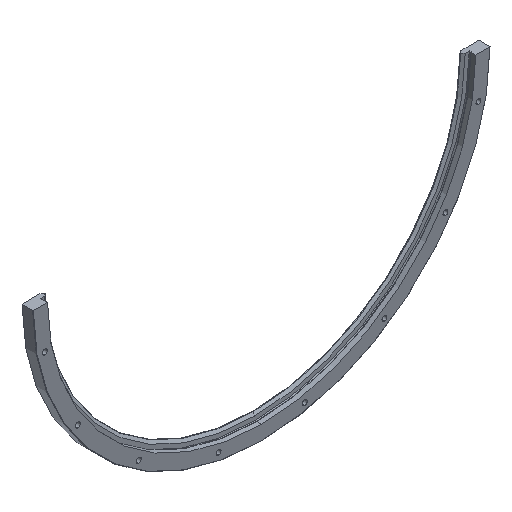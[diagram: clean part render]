
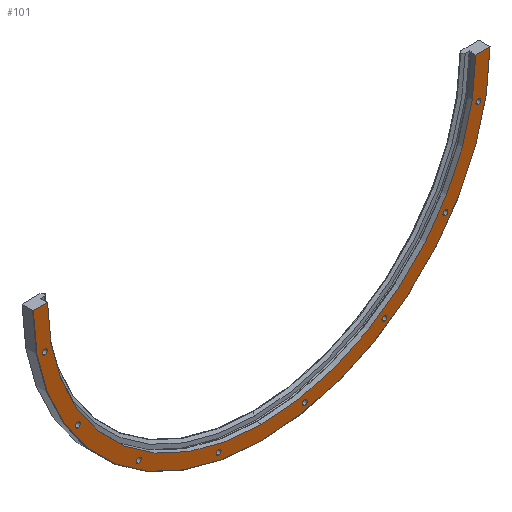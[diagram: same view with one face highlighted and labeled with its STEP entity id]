
A CAD part, isometric view. The second image highlights one B-rep face of the part: STEP entity #101.
In plain terms, the highlighted planar face has unit normal (0, -1, 0).
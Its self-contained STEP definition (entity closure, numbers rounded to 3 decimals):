
#101=ADVANCED_FACE('',(#192,#193,#194,#195,#196,#197,#198,#199,#200),#201,.T.);
#192=FACE_OUTER_BOUND('',#344,.T.);
#193=FACE_BOUND('',#345,.T.);
#194=FACE_BOUND('',#346,.T.);
#195=FACE_BOUND('',#347,.T.);
#196=FACE_BOUND('',#348,.T.);
#197=FACE_BOUND('',#349,.T.);
#198=FACE_BOUND('',#350,.T.);
#199=FACE_BOUND('',#351,.T.);
#200=FACE_BOUND('',#352,.T.);
#201=PLANE('',#353);
#344=EDGE_LOOP('',(#626,#627,#628,#629,#630,#631));
#345=EDGE_LOOP('',(#632,#633));
#346=EDGE_LOOP('',(#634,#635));
#347=EDGE_LOOP('',(#636,#637));
#348=EDGE_LOOP('',(#638,#639));
#349=EDGE_LOOP('',(#640,#641));
#350=EDGE_LOOP('',(#642,#643));
#351=EDGE_LOOP('',(#644,#645));
#352=EDGE_LOOP('',(#646,#647));
#353=AXIS2_PLACEMENT_3D('',#648,#649,#650);
#626=ORIENTED_EDGE('',*,*,#1049,.F.);
#627=ORIENTED_EDGE('',*,*,#969,.T.);
#628=ORIENTED_EDGE('',*,*,#1050,.T.);
#629=ORIENTED_EDGE('',*,*,#1051,.F.);
#630=ORIENTED_EDGE('',*,*,#1052,.F.);
#631=ORIENTED_EDGE('',*,*,#953,.F.);
#632=ORIENTED_EDGE('',*,*,#1053,.T.);
#633=ORIENTED_EDGE('',*,*,#1030,.T.);
#634=ORIENTED_EDGE('',*,*,#1054,.T.);
#635=ORIENTED_EDGE('',*,*,#1038,.T.);
#636=ORIENTED_EDGE('',*,*,#1055,.T.);
#637=ORIENTED_EDGE('',*,*,#1022,.T.);
#638=ORIENTED_EDGE('',*,*,#1056,.T.);
#639=ORIENTED_EDGE('',*,*,#1014,.T.);
#640=ORIENTED_EDGE('',*,*,#1057,.T.);
#641=ORIENTED_EDGE('',*,*,#1006,.T.);
#642=ORIENTED_EDGE('',*,*,#1058,.T.);
#643=ORIENTED_EDGE('',*,*,#998,.T.);
#644=ORIENTED_EDGE('',*,*,#1059,.T.);
#645=ORIENTED_EDGE('',*,*,#990,.T.);
#646=ORIENTED_EDGE('',*,*,#1060,.T.);
#647=ORIENTED_EDGE('',*,*,#982,.T.);
#648=CARTESIAN_POINT('',(-313.25,-12.325,0.0));
#649=DIRECTION('',(0.0,-1.0,0.0));
#650=DIRECTION('',(0.0,0.0,-1.0));
#953=EDGE_CURVE('',#1112,#1108,#1114,.T.);
#969=EDGE_CURVE('',#1144,#1141,#1145,.T.);
#982=EDGE_CURVE('',#1167,#1168,#1169,.T.);
#990=EDGE_CURVE('',#1183,#1184,#1185,.T.);
#998=EDGE_CURVE('',#1199,#1200,#1201,.T.);
#1006=EDGE_CURVE('',#1215,#1216,#1217,.T.);
#1014=EDGE_CURVE('',#1231,#1232,#1233,.T.);
#1022=EDGE_CURVE('',#1247,#1248,#1249,.T.);
#1030=EDGE_CURVE('',#1263,#1264,#1265,.T.);
#1038=EDGE_CURVE('',#1279,#1280,#1281,.T.);
#1049=EDGE_CURVE('',#1144,#1112,#1299,.T.);
#1050=EDGE_CURVE('',#1141,#1300,#1301,.T.);
#1051=EDGE_CURVE('',#1302,#1300,#1303,.T.);
#1052=EDGE_CURVE('',#1108,#1302,#1304,.T.);
#1053=EDGE_CURVE('',#1264,#1263,#1305,.T.);
#1054=EDGE_CURVE('',#1280,#1279,#1306,.T.);
#1055=EDGE_CURVE('',#1248,#1247,#1307,.T.);
#1056=EDGE_CURVE('',#1232,#1231,#1308,.T.);
#1057=EDGE_CURVE('',#1216,#1215,#1309,.T.);
#1058=EDGE_CURVE('',#1200,#1199,#1310,.T.);
#1059=EDGE_CURVE('',#1184,#1183,#1311,.T.);
#1060=EDGE_CURVE('',#1168,#1167,#1312,.T.);
#1108=VERTEX_POINT('',#1368);
#1112=VERTEX_POINT('',#1373);
#1114=CIRCLE('',#1378,313.25);
#1141=VERTEX_POINT('',#1418);
#1144=VERTEX_POINT('',#1422);
#1145=CIRCLE('',#1423,293.75);
#1167=VERTEX_POINT('',#1458);
#1168=VERTEX_POINT('',#1459);
#1169=CIRCLE('',#1460,3.4);
#1183=VERTEX_POINT('',#1478);
#1184=VERTEX_POINT('',#1479);
#1185=CIRCLE('',#1480,3.4);
#1199=VERTEX_POINT('',#1498);
#1200=VERTEX_POINT('',#1499);
#1201=CIRCLE('',#1500,3.4);
#1215=VERTEX_POINT('',#1518);
#1216=VERTEX_POINT('',#1519);
#1217=CIRCLE('',#1520,3.4);
#1231=VERTEX_POINT('',#1538);
#1232=VERTEX_POINT('',#1539);
#1233=CIRCLE('',#1540,3.4);
#1247=VERTEX_POINT('',#1558);
#1248=VERTEX_POINT('',#1559);
#1249=CIRCLE('',#1560,3.4);
#1263=VERTEX_POINT('',#1578);
#1264=VERTEX_POINT('',#1579);
#1265=CIRCLE('',#1580,3.4);
#1279=VERTEX_POINT('',#1598);
#1280=VERTEX_POINT('',#1599);
#1281=CIRCLE('',#1600,3.4);
#1299=LINE('',#1628,#1629);
#1300=VERTEX_POINT('',#1630);
#1301=CIRCLE('',#1631,293.75);
#1302=VERTEX_POINT('',#1632);
#1303=LINE('',#1633,#1634);
#1304=CIRCLE('',#1635,313.25);
#1305=CIRCLE('',#1636,3.4);
#1306=CIRCLE('',#1637,3.4);
#1307=CIRCLE('',#1638,3.4);
#1308=CIRCLE('',#1639,3.4);
#1309=CIRCLE('',#1640,3.4);
#1310=CIRCLE('',#1641,3.4);
#1311=CIRCLE('',#1642,3.4);
#1312=CIRCLE('',#1643,3.4);
#1368=CARTESIAN_POINT('',(0.,-12.325,-313.25));
#1373=CARTESIAN_POINT('',(313.244,-12.325,-2.0));
#1378=AXIS2_PLACEMENT_3D('',#1728,#1729,#1730);
#1418=CARTESIAN_POINT('',(0.,-12.325,-293.75));
#1422=CARTESIAN_POINT('',(293.743,-12.325,-2.0));
#1423=AXIS2_PLACEMENT_3D('',#1758,#1759,#1760);
#1458=CARTESIAN_POINT('',(297.423,-12.325,-62.561));
#1459=CARTESIAN_POINT('',(297.423,-12.325,-55.761));
#1460=AXIS2_PLACEMENT_3D('',#1785,#1786,#1787);
#1478=CARTESIAN_POINT('',(252.143,-12.325,-171.877));
#1479=CARTESIAN_POINT('',(252.143,-12.325,-165.077));
#1480=AXIS2_PLACEMENT_3D('',#1801,#1802,#1803);
#1498=CARTESIAN_POINT('',(168.477,-12.325,-255.543));
#1499=CARTESIAN_POINT('',(168.477,-12.325,-248.743));
#1500=AXIS2_PLACEMENT_3D('',#1817,#1818,#1819);
#1518=CARTESIAN_POINT('',(59.161,-12.325,-300.823));
#1519=CARTESIAN_POINT('',(59.161,-12.325,-294.023));
#1520=AXIS2_PLACEMENT_3D('',#1833,#1834,#1835);
#1538=CARTESIAN_POINT('',(-59.161,-12.325,-300.823));
#1539=CARTESIAN_POINT('',(-59.161,-12.325,-294.023));
#1540=AXIS2_PLACEMENT_3D('',#1849,#1850,#1851);
#1558=CARTESIAN_POINT('',(-168.477,-12.325,-255.543));
#1559=CARTESIAN_POINT('',(-168.477,-12.325,-248.743));
#1560=AXIS2_PLACEMENT_3D('',#1865,#1866,#1867);
#1578=CARTESIAN_POINT('',(-252.143,-12.325,-171.877));
#1579=CARTESIAN_POINT('',(-252.143,-12.325,-165.077));
#1580=AXIS2_PLACEMENT_3D('',#1881,#1882,#1883);
#1598=CARTESIAN_POINT('',(-297.423,-12.325,-62.561));
#1599=CARTESIAN_POINT('',(-297.423,-12.325,-55.761));
#1600=AXIS2_PLACEMENT_3D('',#1897,#1898,#1899);
#1628=CARTESIAN_POINT('',(29.933,-12.325,-2.0));
#1629=VECTOR('',#1916,1000.0);
#1630=CARTESIAN_POINT('',(-293.743,-12.325,-2.0));
#1631=AXIS2_PLACEMENT_3D('',#1917,#1918,#1919);
#1632=CARTESIAN_POINT('',(-313.244,-12.325,-2.0));
#1633=CARTESIAN_POINT('',(-999.998,-12.325,-2.0));
#1634=VECTOR('',#1920,1000.0);
#1635=AXIS2_PLACEMENT_3D('',#1921,#1922,#1923);
#1636=AXIS2_PLACEMENT_3D('',#1924,#1925,#1926);
#1637=AXIS2_PLACEMENT_3D('',#1927,#1928,#1929);
#1638=AXIS2_PLACEMENT_3D('',#1930,#1931,#1932);
#1639=AXIS2_PLACEMENT_3D('',#1933,#1934,#1935);
#1640=AXIS2_PLACEMENT_3D('',#1936,#1937,#1938);
#1641=AXIS2_PLACEMENT_3D('',#1939,#1940,#1941);
#1642=AXIS2_PLACEMENT_3D('',#1942,#1943,#1944);
#1643=AXIS2_PLACEMENT_3D('',#1945,#1946,#1947);
#1728=CARTESIAN_POINT('',(0.0,-12.325,0.0));
#1729=DIRECTION('',(-0.0,1.0,0.0));
#1730=DIRECTION('',(0.0,0.0,1.0));
#1758=CARTESIAN_POINT('',(0.0,-12.325,0.0));
#1759=DIRECTION('',(-0.0,1.0,0.0));
#1760=DIRECTION('',(0.0,0.0,1.0));
#1785=CARTESIAN_POINT('',(297.423,-12.325,-59.161));
#1786=DIRECTION('',(-0.0,1.0,0.0));
#1787=DIRECTION('',(0.0,0.0,1.0));
#1801=CARTESIAN_POINT('',(252.143,-12.325,-168.477));
#1802=DIRECTION('',(-0.0,1.0,0.0));
#1803=DIRECTION('',(0.0,0.0,1.0));
#1817=CARTESIAN_POINT('',(168.477,-12.325,-252.143));
#1818=DIRECTION('',(-0.0,1.0,0.0));
#1819=DIRECTION('',(0.0,0.0,1.0));
#1833=CARTESIAN_POINT('',(59.161,-12.325,-297.423));
#1834=DIRECTION('',(-0.0,1.0,0.0));
#1835=DIRECTION('',(0.0,0.0,1.0));
#1849=CARTESIAN_POINT('',(-59.161,-12.325,-297.423));
#1850=DIRECTION('',(-0.0,1.0,0.0));
#1851=DIRECTION('',(0.0,0.0,1.0));
#1865=CARTESIAN_POINT('',(-168.477,-12.325,-252.143));
#1866=DIRECTION('',(-0.0,1.0,0.0));
#1867=DIRECTION('',(0.0,0.0,1.0));
#1881=CARTESIAN_POINT('',(-252.143,-12.325,-168.477));
#1882=DIRECTION('',(-0.0,1.0,0.0));
#1883=DIRECTION('',(0.0,0.0,1.0));
#1897=CARTESIAN_POINT('',(-297.423,-12.325,-59.161));
#1898=DIRECTION('',(-0.0,1.0,0.0));
#1899=DIRECTION('',(0.0,0.0,1.0));
#1916=DIRECTION('',(1.0,0.0,0.0));
#1917=CARTESIAN_POINT('',(0.0,-12.325,0.0));
#1918=DIRECTION('',(-0.0,1.0,0.0));
#1919=DIRECTION('',(0.0,0.0,1.0));
#1920=DIRECTION('',(1.0,0.0,0.0));
#1921=CARTESIAN_POINT('',(0.0,-12.325,0.0));
#1922=DIRECTION('',(-0.0,1.0,0.0));
#1923=DIRECTION('',(0.0,0.0,1.0));
#1924=CARTESIAN_POINT('',(-252.143,-12.325,-168.477));
#1925=DIRECTION('',(-0.0,1.0,0.0));
#1926=DIRECTION('',(0.0,0.0,1.0));
#1927=CARTESIAN_POINT('',(-297.423,-12.325,-59.161));
#1928=DIRECTION('',(-0.0,1.0,0.0));
#1929=DIRECTION('',(0.0,0.0,1.0));
#1930=CARTESIAN_POINT('',(-168.477,-12.325,-252.143));
#1931=DIRECTION('',(-0.0,1.0,0.0));
#1932=DIRECTION('',(0.0,0.0,1.0));
#1933=CARTESIAN_POINT('',(-59.161,-12.325,-297.423));
#1934=DIRECTION('',(-0.0,1.0,0.0));
#1935=DIRECTION('',(0.0,0.0,1.0));
#1936=CARTESIAN_POINT('',(59.161,-12.325,-297.423));
#1937=DIRECTION('',(-0.0,1.0,0.0));
#1938=DIRECTION('',(0.0,0.0,1.0));
#1939=CARTESIAN_POINT('',(168.477,-12.325,-252.143));
#1940=DIRECTION('',(-0.0,1.0,0.0));
#1941=DIRECTION('',(0.0,0.0,1.0));
#1942=CARTESIAN_POINT('',(252.143,-12.325,-168.477));
#1943=DIRECTION('',(-0.0,1.0,0.0));
#1944=DIRECTION('',(0.0,0.0,1.0));
#1945=CARTESIAN_POINT('',(297.423,-12.325,-59.161));
#1946=DIRECTION('',(-0.0,1.0,0.0));
#1947=DIRECTION('',(0.0,0.0,1.0));
